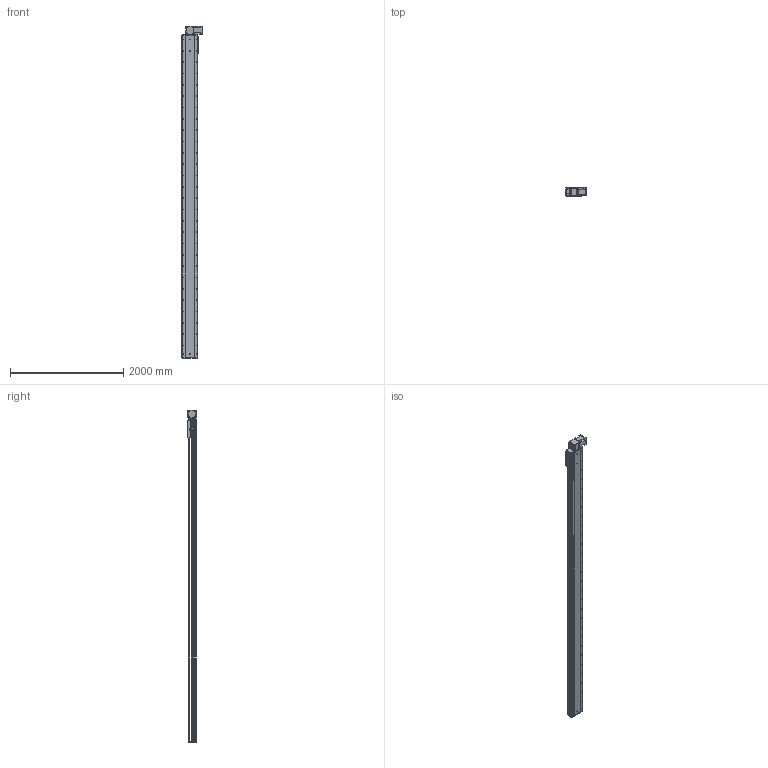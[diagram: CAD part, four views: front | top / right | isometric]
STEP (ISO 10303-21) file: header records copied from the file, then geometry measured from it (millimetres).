
FILE_DESCRIPTION (( 'STEP AP214' ), '1' );
FILE_NAME ('RTB28S-XX-5250-BL-M100-XX-C4.STEP', '2025-12-22T02:54:19', ( '' ), ( '' ), 'SwSTEP 2.0', 'SolidWorks 2018', '' );
FILE_SCHEMA (( 'AUTOMOTIVE_DESIGN' ));
Length unit declared in the file: millimetre
Products named in the file (4): RTB28S-GY-008^RTB28S-XX-XX-BL-M100-XX-C4; RTB28S-XX-5250-BL-M100-XX-C4; RTB28S-GY-011^RTB28S-XX-XX-BL-M100-XX-C4; RTB28S-GY-004^RTB28S-XX-XX-BL-M100-XX-C4
Assembly tree (3 placements, depth 2):
  RTB28S-XX-5250-BL-M100-XX-C4
    RTB28S-GY-011^RTB28S-XX-XX-BL-M100-XX-C4
    RTB28S-GY-004^RTB28S-XX-XX-BL-M100-XX-C4
    RTB28S-GY-008^RTB28S-XX-XX-BL-M100-XX-C4
Bounding box: 380.7 x 145 x 5857 mm (x, y, z)
Volume: 96545860.1 mm3; surface area: 8900557.8 mm2
Topology: 3 solids, 4 shells, 998 faces, 2718 edges, 1748 vertices
Faces by surface type: cylinder 527, plane 387, cone 80, torus 4
Entity records: 39719 total; most frequent: CARTESIAN_POINT 8152, DIRECTION 5808, ORIENTED_EDGE 5372, EDGE_CURVE 2686, AXIS2_PLACEMENT_3D 2184, VERTEX_POINT 1748, VECTOR 1440, LINE 1440
